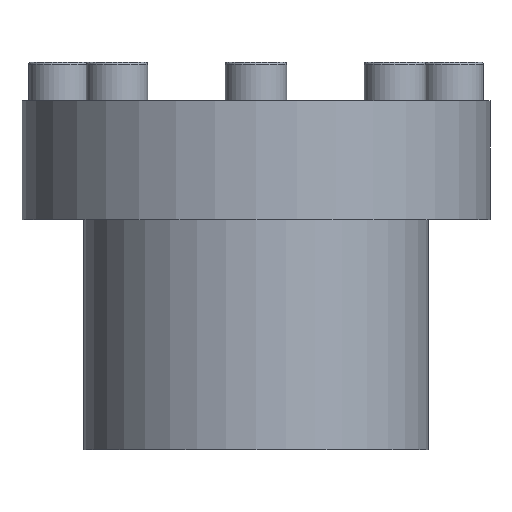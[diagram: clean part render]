
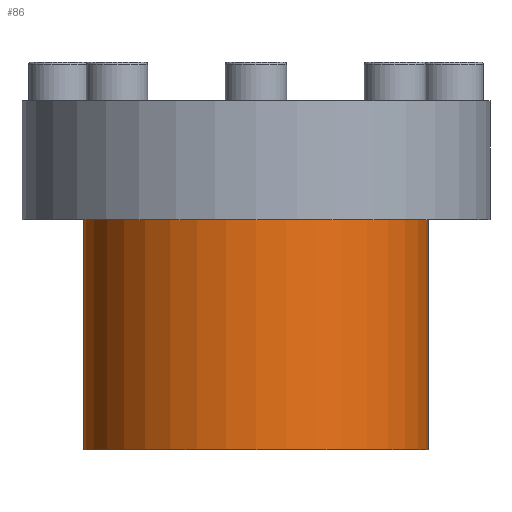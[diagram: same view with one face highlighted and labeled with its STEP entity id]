
A CAD part, front view. The second image highlights one B-rep face of the part: STEP entity #86.
In plain terms, the highlighted cylindrical face has radius 44.9 mm (diameter 89.8 mm), a partial arc.
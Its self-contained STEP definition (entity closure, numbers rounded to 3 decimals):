
#57 = VERTEX_POINT ( 'NONE', #155 ) ;
#86 = ADVANCED_FACE ( 'NONE', ( #1179 ), #2753, .T. ) ;
#142 = ORIENTED_EDGE ( 'NONE', *, *, #270, .F. ) ;
#155 = CARTESIAN_POINT ( 'NONE',  ( 44.9, 0., -31. ) ) ;
#192 = AXIS2_PLACEMENT_3D ( 'NONE', #860, #2519, #462 ) ;
#270 = EDGE_CURVE ( 'NONE', #2267, #57, #2681, .T. ) ;
#271 = CARTESIAN_POINT ( 'NONE',  ( 0., 0., -91. ) ) ;
#324 = VERTEX_POINT ( 'NONE', #1194 ) ;
#439 = DIRECTION ( 'NONE',  ( 0., 0., 1. ) ) ;
#462 = DIRECTION ( 'NONE',  ( 1., 0., 0. ) ) ;
#706 = ORIENTED_EDGE ( 'NONE', *, *, #1623, .T. ) ;
#802 = CARTESIAN_POINT ( 'NONE',  ( -44.9, 0., -31. ) ) ;
#860 = CARTESIAN_POINT ( 'NONE',  ( 0., 0., 0. ) ) ;
#902 = EDGE_CURVE ( 'NONE', #1071, #324, #1948, .T. ) ;
#922 = DIRECTION ( 'NONE',  ( 0., 0., 1. ) ) ;
#1071 = VERTEX_POINT ( 'NONE', #1323 ) ;
#1120 = VECTOR ( 'NONE', #439, 1000. ) ;
#1163 = CARTESIAN_POINT ( 'NONE',  ( -44.9, 0., 0. ) ) ;
#1179 = FACE_OUTER_BOUND ( 'NONE', #2389, .T. ) ;
#1194 = CARTESIAN_POINT ( 'NONE',  ( 44.9, 0., -91. ) ) ;
#1317 = ORIENTED_EDGE ( 'NONE', *, *, #902, .T. ) ;
#1323 = CARTESIAN_POINT ( 'NONE',  ( -44.9, 0., -91. ) ) ;
#1623 = EDGE_CURVE ( 'NONE', #324, #57, #2376, .T. ) ;
#1817 = ORIENTED_EDGE ( 'NONE', *, *, #2105, .F. ) ;
#1825 = AXIS2_PLACEMENT_3D ( 'NONE', #2861, #2850, #1902 ) ;
#1902 = DIRECTION ( 'NONE',  ( 1., 0., 0. ) ) ;
#1915 = VECTOR ( 'NONE', #922, 1000. ) ;
#1948 = CIRCLE ( 'NONE', #2737, 44.9 ) ;
#2105 = EDGE_CURVE ( 'NONE', #1071, #2267, #2885, .T. ) ;
#2267 = VERTEX_POINT ( 'NONE', #802 ) ;
#2376 = LINE ( 'NONE', #2604, #1915 ) ;
#2387 = DIRECTION ( 'NONE',  ( 1., 0., 0. ) ) ;
#2389 = EDGE_LOOP ( 'NONE', ( #1817, #1317, #706, #142 ) ) ;
#2519 = DIRECTION ( 'NONE',  ( 0., 0., 1. ) ) ;
#2604 = CARTESIAN_POINT ( 'NONE',  ( 44.9, 0., 0. ) ) ;
#2681 = CIRCLE ( 'NONE', #1825, 44.9 ) ;
#2737 = AXIS2_PLACEMENT_3D ( 'NONE', #271, #2836, #2387 ) ;
#2753 = CYLINDRICAL_SURFACE ( 'NONE', #192, 44.9 ) ;
#2836 = DIRECTION ( 'NONE',  ( 0., 0., 1. ) ) ;
#2850 = DIRECTION ( 'NONE',  ( 0., 0., 1. ) ) ;
#2861 = CARTESIAN_POINT ( 'NONE',  ( 0., 0., -31. ) ) ;
#2885 = LINE ( 'NONE', #1163, #1120 ) ;
